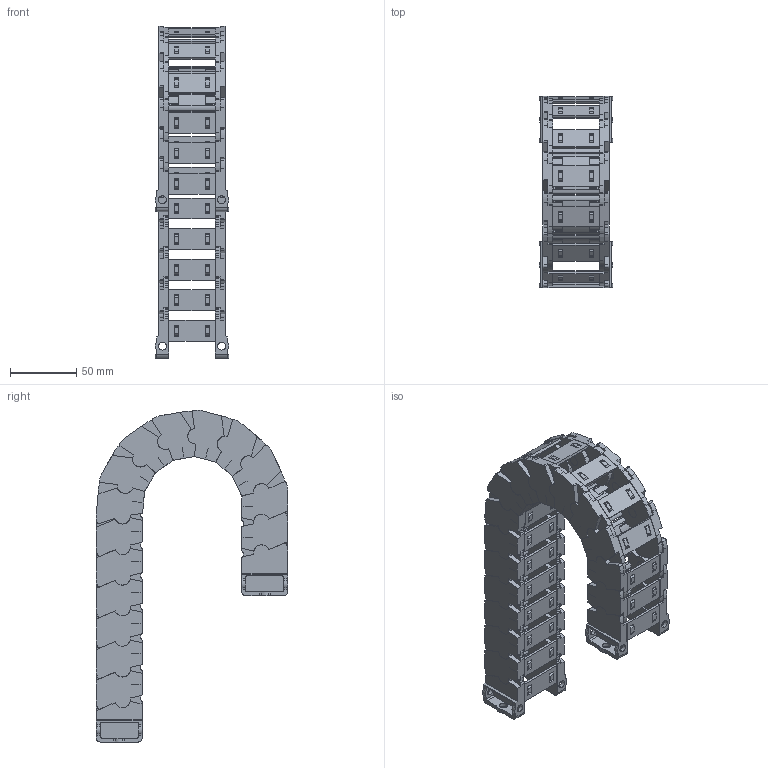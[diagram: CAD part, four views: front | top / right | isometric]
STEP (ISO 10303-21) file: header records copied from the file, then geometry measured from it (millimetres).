
FILE_DESCRIPTION((''),'2;1');
FILE_NAME('JY-25X35-R55_ASM','2023-02-08T14:41:18',('admin'),(''),'CREO PARAMETRIC BY PTC INC, 2021164','CREO PARAMETRIC BY PTC INC, 2021164','');
FILE_SCHEMA(('CONFIG_CONTROL_DESIGN','GEOMETRIC_VALIDATION_PROPERTIES_MIM'));
Length unit declared in the file: millimetre
Products named in the file (11): 25XL-L; 25-35XL-YP; 25XL-R; ASM0001_ASM; 25-LTT-A-L; 25-LTT-A-R; 25XL-LTT-A_ASM; 25-LTT-B-L; 25-LTT-B-R; 25XL-LTT-B_ASM; JY-25X35-R55_ASM
Assembly tree (29 placements, depth 3):
  JY-25X35-R55_ASM
    ASM0001_ASM  x15
      25XL-L
      25-35XL-YP
      25XL-R
    25XL-LTT-A_ASM
      25-LTT-A-L
      25-35XL-YP  x2
      25-LTT-A-R
    25XL-LTT-B_ASM
      25-LTT-B-L
      25-35XL-YP  x2
      25-LTT-B-R
Bounding box: 55.67 x 144.67 x 250.78 mm (x, y, z)
Volume: 248580 mm3; surface area: 188363.1 mm2
Topology: 68 solids, 83 shells, 3544 faces, 10581 edges, 7156 vertices
Faces by surface type: plane 2605, cylinder 909, cone 30
Entity records: 24023 total; most frequent: CARTESIAN_POINT 3114, DIRECTION 3009, ORIENTED_EDGE 2962, EDGE_CURVE 1483, PRESENTATION_STYLE_ASSIGNMENT 1413, STYLED_ITEM 1381, VECTOR 1053, LINE 1053
